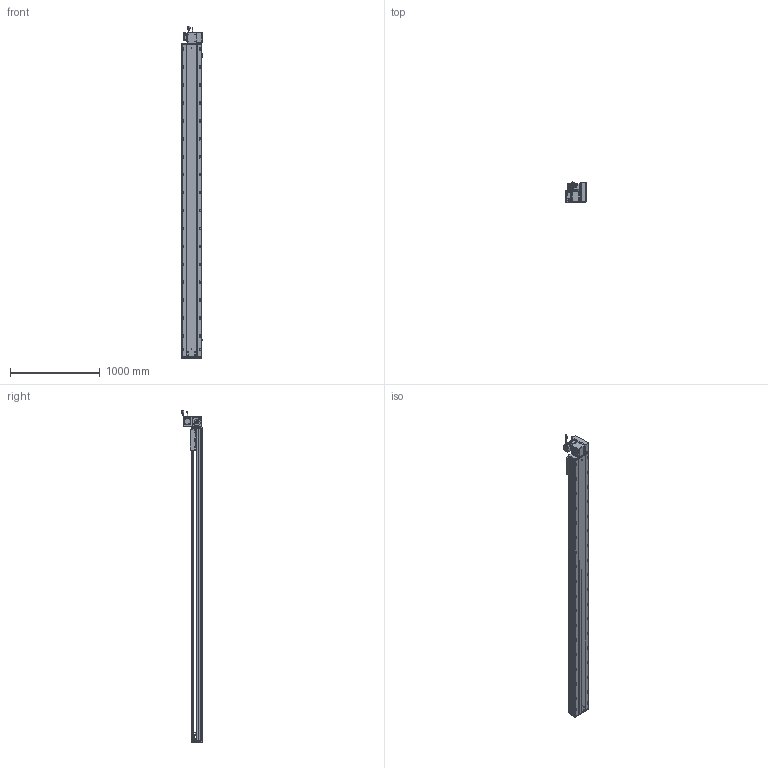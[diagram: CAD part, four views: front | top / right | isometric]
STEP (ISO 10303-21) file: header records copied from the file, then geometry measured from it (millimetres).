
FILE_DESCRIPTION (( 'STEP AP203' ), '1' );
FILE_NAME ('RY220-T-300-UR.SLDASM_3150.step', '2022-07-25T08:46:23', ( '' ), ( '' ), 'SwSTEP 2.0', 'SolidWorks 2016', '' );
FILE_SCHEMA (( 'CONFIG_CONTROL_DESIGN' ));
Length unit declared in the file: millimetre
Products named in the file (14): RY220-T菁釱-300_3150; RY220-T-300-UR.SLDASM_3150; RY220翋肮祭謫裔啣; 覜茼ん672; RY220-同步轮副支撑座6304×2; 110A-T-肮祭謫釱傷裔; RY220-T-蛌殏萇儂假蚾啣(750W); RY220-T-300-奻裔啣_3150; RY220圉猾敕々湍臏賑輸; 滅袉蝶18-15; RY220-俋离672覜茼んえ; 怢湛750W_ECMA-CX0807ES; RY220-T-湍謫欶(鍼踢); RY220翋肮祭謫釱
Assembly tree (18 placements, depth 2):
  RY220-T-300-UR.SLDASM_3150
    RY220-T菁釱-300_3150
    RY220翋肮祭謫釱
    覜茼ん672  x3
    RY220圉猾敕々湍臏賑輸
    RY220-T-300-奻裔啣_3150
    RY220-俋离672覜茼んえ
    滅袉蝶18-15  x3
    RY220翋肮祭謫裔啣  x2
    110A-T-肮祭謫釱傷裔
    怢湛750W_ECMA-CX0807ES
    RY220-T-湍謫欶(鍼踢)
    RY220-T-蛌殏萇儂假蚾啣(750W)
    RY220-同步轮副支撑座6304×2
Bounding box: 238.7 x 231.74 x 3703.27 mm (x, y, z)
Volume: 26173895.3 mm3; surface area: 8115781.6 mm2
Topology: 19 solids, 19 shells, 3066 faces, 8483 edges, 5302 vertices
Faces by surface type: cylinder 1522, plane 1069, cone 393, bspline 56, sphere 16, torus 10
Entity records: 102243 total; most frequent: CARTESIAN_POINT 28783, ORIENTED_EDGE 15162, DIRECTION 14688, EDGE_CURVE 7581, AXIS2_PLACEMENT_3D 5316, VERTEX_POINT 4926, VECTOR 4056, LINE 4056
